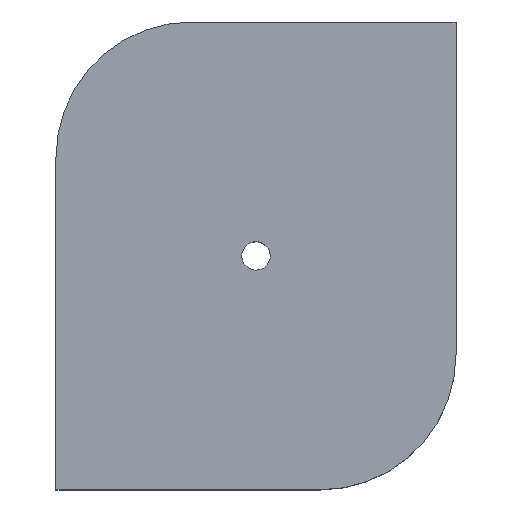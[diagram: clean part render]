
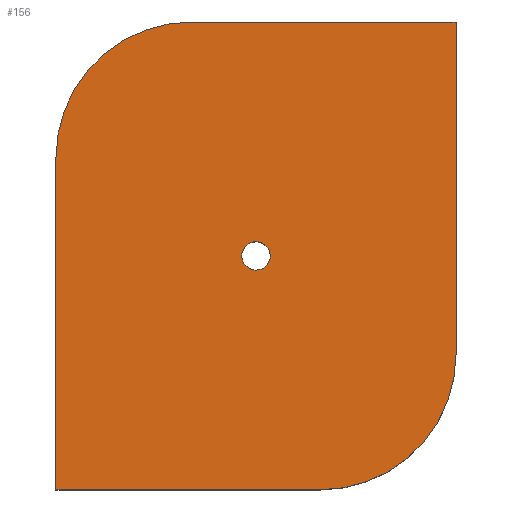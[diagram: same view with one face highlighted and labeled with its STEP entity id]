
A CAD part, top view. The second image highlights one B-rep face of the part: STEP entity #156.
In plain terms, the highlighted planar face has unit normal (0, 0, 1).
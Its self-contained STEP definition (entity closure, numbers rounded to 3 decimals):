
#63=CARTESIAN_POINT('Vertex',(55.325,71.008,33.)) ;
#77=CARTESIAN_POINT('Vertex',(62.675,66.992,33.)) ;
#80=CARTESIAN_POINT('Axis2P3D Location',(59.,69.,33.)) ;
#92=CARTESIAN_POINT('Axis2P3D Location',(0.,0.,33.)) ;
#97=CARTESIAN_POINT('Line Origine',(0.,49.,33.)) ;
#101=CARTESIAN_POINT('Vertex',(0.,98.,33.)) ;
#103=CARTESIAN_POINT('Vertex',(0.,0.,33.)) ;
#106=CARTESIAN_POINT('Line Origine',(39.,0.,33.)) ;
#110=CARTESIAN_POINT('Vertex',(78.,0.,33.)) ;
#113=CARTESIAN_POINT('Axis2P3D Location',(78.,40.,33.)) ;
#117=CARTESIAN_POINT('Vertex',(118.,40.,33.)) ;
#120=CARTESIAN_POINT('Line Origine',(118.,89.,33.)) ;
#124=CARTESIAN_POINT('Vertex',(118.,138.,33.)) ;
#127=CARTESIAN_POINT('Line Origine',(79.,138.,33.)) ;
#131=CARTESIAN_POINT('Vertex',(40.,138.,33.)) ;
#134=CARTESIAN_POINT('Axis2P3D Location',(40.,98.,33.)) ;
#147=CARTESIAN_POINT('Axis2P3D Location',(59.,69.,33.)) ;
#81=DIRECTION('Axis2P3D Direction',(0.,-0.,-1.)) ;
#93=DIRECTION('Axis2P3D Direction',(0.,0.,1.)) ;
#94=DIRECTION('Axis2P3D XDirection',(1.,0.,0.)) ;
#98=DIRECTION('Vector Direction',(0.,-1.,0.)) ;
#107=DIRECTION('Vector Direction',(1.,0.,0.)) ;
#114=DIRECTION('Axis2P3D Direction',(0.,0.,1.)) ;
#121=DIRECTION('Vector Direction',(0.,1.,0.)) ;
#128=DIRECTION('Vector Direction',(-1.,0.,0.)) ;
#135=DIRECTION('Axis2P3D Direction',(0.,0.,1.)) ;
#148=DIRECTION('Axis2P3D Direction',(0.,0.,1.)) ;
#82=AXIS2_PLACEMENT_3D('Circle Axis2P3D',#80,#81,$) ;
#95=AXIS2_PLACEMENT_3D('Plane Axis2P3D',#92,#93,#94) ;
#115=AXIS2_PLACEMENT_3D('Circle Axis2P3D',#113,#114,$) ;
#136=AXIS2_PLACEMENT_3D('Circle Axis2P3D',#134,#135,$) ;
#149=AXIS2_PLACEMENT_3D('Circle Axis2P3D',#147,#148,$) ;
#140=ORIENTED_EDGE('',*,*,#105,.T.) ;
#141=ORIENTED_EDGE('',*,*,#112,.T.) ;
#142=ORIENTED_EDGE('',*,*,#119,.F.) ;
#143=ORIENTED_EDGE('',*,*,#126,.T.) ;
#144=ORIENTED_EDGE('',*,*,#133,.T.) ;
#145=ORIENTED_EDGE('',*,*,#138,.F.) ;
#153=ORIENTED_EDGE('',*,*,#151,.F.) ;
#154=ORIENTED_EDGE('',*,*,#84,.F.) ;
#155=FACE_BOUND('',#152,.T.) ;
#99=VECTOR('Line Direction',#98,1.) ;
#108=VECTOR('Line Direction',#107,1.) ;
#122=VECTOR('Line Direction',#121,1.) ;
#129=VECTOR('Line Direction',#128,1.) ;
#156=ADVANCED_FACE('PartBody',(#146,#155),#96,.T.) ;
#83=CIRCLE('generated circle',#82,4.188) ;
#116=CIRCLE('generated circle',#115,40.) ;
#137=CIRCLE('generated circle',#136,40.) ;
#150=CIRCLE('generated circle',#149,4.188) ;
#84=EDGE_CURVE('',#78,#64,#83,.F.) ;
#105=EDGE_CURVE('',#102,#104,#100,.T.) ;
#112=EDGE_CURVE('',#104,#111,#109,.T.) ;
#119=EDGE_CURVE('',#118,#111,#116,.F.) ;
#126=EDGE_CURVE('',#118,#125,#123,.T.) ;
#133=EDGE_CURVE('',#125,#132,#130,.T.) ;
#138=EDGE_CURVE('',#102,#132,#137,.F.) ;
#151=EDGE_CURVE('',#64,#78,#150,.T.) ;
#139=EDGE_LOOP('',(#140,#141,#142,#143,#144,#145)) ;
#152=EDGE_LOOP('',(#153,#154)) ;
#146=FACE_OUTER_BOUND('',#139,.T.) ;
#100=LINE('Line',#97,#99) ;
#109=LINE('Line',#106,#108) ;
#123=LINE('Line',#120,#122) ;
#130=LINE('Line',#127,#129) ;
#96=PLANE('',#95) ;
#64=VERTEX_POINT('',#63) ;
#78=VERTEX_POINT('',#77) ;
#102=VERTEX_POINT('',#101) ;
#104=VERTEX_POINT('',#103) ;
#111=VERTEX_POINT('',#110) ;
#118=VERTEX_POINT('',#117) ;
#125=VERTEX_POINT('',#124) ;
#132=VERTEX_POINT('',#131) ;
